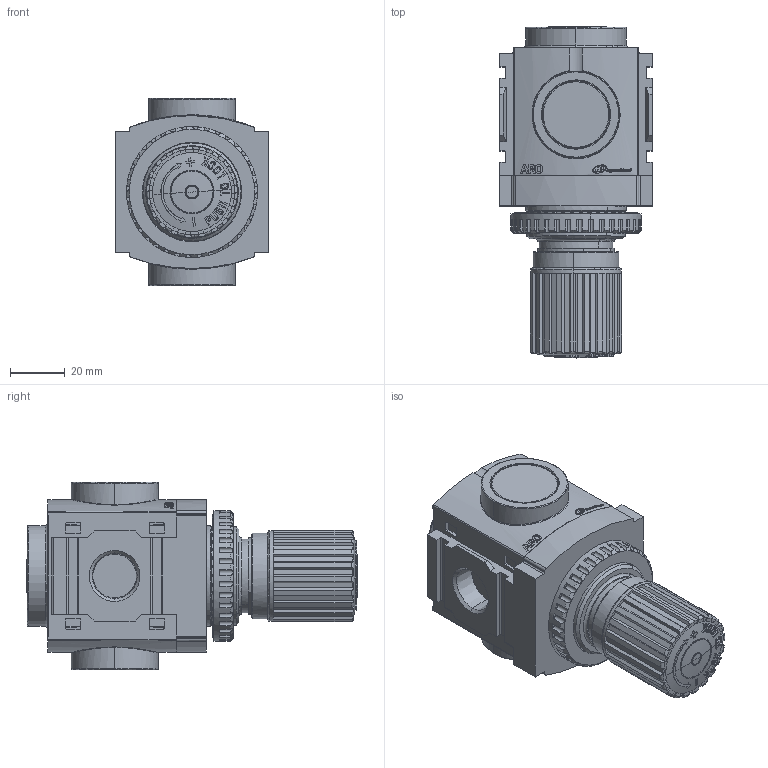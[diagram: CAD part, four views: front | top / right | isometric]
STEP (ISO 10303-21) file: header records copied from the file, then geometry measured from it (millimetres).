
FILE_DESCRIPTION(/* description */ (''),/* implementation_level */ '2;1');
FILE_NAME(/* name */ 'R372X1-XXX_01',/* time_stamp */ '2009-02-03T14:55:42-05:00',/* author */ (''),/* organization */ (''),/* preprocessor_version */ 'ST-DEVELOPER v9',/* originating_system */ 'UGS - NX 4.0',/* authorisation */ '');
FILE_SCHEMA (('AUTOMOTIVE_DESIGN { 1 0 10303 214 1 1 1 1 }'));
Products named in the file (1): szeeDA8Ai62j
Bounding box: 56 x 121.7 x 68.7 mm (x, y, z)
Volume: 223293.5 mm3; surface area: 33548.9 mm2
Topology: 2 solids, 2 shells, 1655 faces, 4200 edges, 2689 vertices
Faces by surface type: plane 908, cylinder 431, extrusion 106, bspline 99, cone 53, torus 47, sphere 9, revolution 2
Entity records: 71163 total; most frequent: CARTESIAN_POINT 24039, ORIENTED_EDGE 8400, DIRECTION 5490, EDGE_CURVE 4200, VERTEX_POINT 2689, B_SPLINE_CURVE_WITH_KNOTS 2100, VECTOR 1976, LINE 1870
